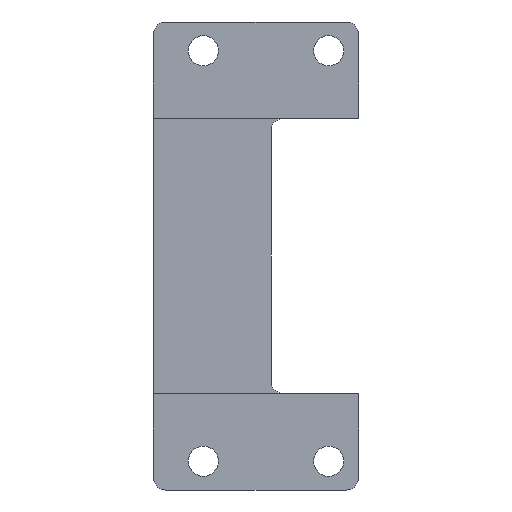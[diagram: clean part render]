
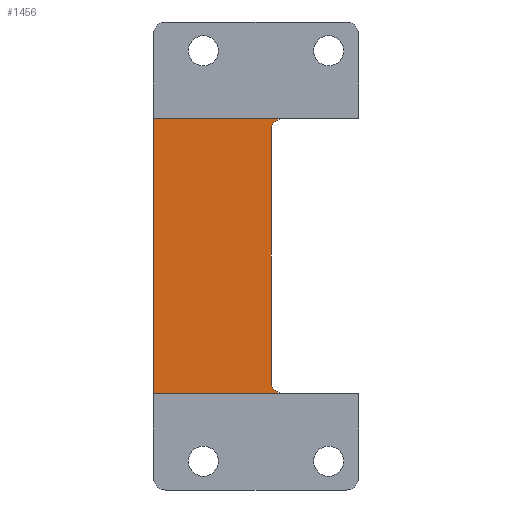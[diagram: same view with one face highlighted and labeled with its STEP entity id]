
A CAD part, left-side view. The second image highlights one B-rep face of the part: STEP entity #1456.
In plain terms, the highlighted planar face has unit normal (-1, 0, 0).
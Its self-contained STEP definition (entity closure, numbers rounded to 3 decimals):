
#48 = DIRECTION ( 'NONE',  ( 0., 0., -1. ) ) ;
#49 = CARTESIAN_POINT ( 'NONE',  ( 1., -6., 50. ) ) ;
#50 = LINE ( 'NONE', #49, #1151 ) ;
#170 = CARTESIAN_POINT ( 'NONE',  ( 1., -11., -55. ) ) ;
#173 = CARTESIAN_POINT ( 'NONE',  ( 1., -6., -50. ) ) ;
#176 = CARTESIAN_POINT ( 'NONE',  ( 1., -6., 50. ) ) ;
#177 = CARTESIAN_POINT ( 'NONE',  ( 1., -11., 55. ) ) ;
#187 = CARTESIAN_POINT ( 'NONE',  ( 1., 41., 55. ) ) ;
#189 = CARTESIAN_POINT ( 'NONE',  ( 1., 41., -55. ) ) ;
#337 = ORIENTED_EDGE ( 'NONE', *, *, #1522, .F. ) ;
#429 = ORIENTED_EDGE ( 'NONE', *, *, #1673, .F. ) ;
#430 = DIRECTION ( 'NONE',  ( 0., 0., -1. ) ) ;
#431 = DIRECTION ( 'NONE',  ( -1., 0., 0. ) ) ;
#456 = CARTESIAN_POINT ( 'NONE',  ( 1., -11., 50. ) ) ;
#542 = DIRECTION ( 'NONE',  ( 0., 0., -1. ) ) ;
#543 = CARTESIAN_POINT ( 'NONE',  ( 1., 41., -55. ) ) ;
#550 = LINE ( 'NONE', #543, #883 ) ;
#609 = EDGE_LOOP ( 'NONE', ( #1136, #907, #429, #337, #1288, #1006 ) ) ;
#642 = DIRECTION ( 'NONE',  ( 0., 1., 0. ) ) ;
#649 = CARTESIAN_POINT ( 'NONE',  ( 1., -41., -55. ) ) ;
#673 = LINE ( 'NONE', #649, #951 ) ;
#711 = LINE ( 'NONE', #1839, #1781 ) ;
#768 = AXIS2_PLACEMENT_3D ( 'NONE', #456, #431, #430 ) ;
#792 = VERTEX_POINT ( 'NONE', #189 ) ;
#793 = VERTEX_POINT ( 'NONE', #187 ) ;
#819 = VERTEX_POINT ( 'NONE', #177 ) ;
#820 = VERTEX_POINT ( 'NONE', #176 ) ;
#829 = VERTEX_POINT ( 'NONE', #173 ) ;
#832 = VERTEX_POINT ( 'NONE', #170 ) ;
#883 = VECTOR ( 'NONE', #542, 1000. ) ;
#907 = ORIENTED_EDGE ( 'NONE', *, *, #1691, .T. ) ;
#951 = VECTOR ( 'NONE', #642, 1000. ) ;
#1006 = ORIENTED_EDGE ( 'NONE', *, *, #1720, .F. ) ;
#1125 = CIRCLE ( 'NONE', #768, 5. ) ;
#1136 = ORIENTED_EDGE ( 'NONE', *, *, #1409, .T. ) ;
#1151 = VECTOR ( 'NONE', #48, 1000. ) ;
#1195 = CIRCLE ( 'NONE', #1546, 5. ) ;
#1288 = ORIENTED_EDGE ( 'NONE', *, *, #1372, .F. ) ;
#1372 = EDGE_CURVE ( 'NONE', #820, #829, #50, .T. ) ;
#1409 = EDGE_CURVE ( 'NONE', #819, #793, #711, .T. ) ;
#1444 = DIRECTION ( 'NONE',  ( 0., 0., -1. ) ) ;
#1451 = DIRECTION ( 'NONE',  ( -1., 0., 0. ) ) ;
#1453 = CARTESIAN_POINT ( 'NONE',  ( 1., -11., -50. ) ) ;
#1456 = ADVANCED_FACE ( 'NONE', ( #1663 ), #1736, .F. ) ;
#1522 = EDGE_CURVE ( 'NONE', #829, #832, #1195, .T. ) ;
#1546 = AXIS2_PLACEMENT_3D ( 'NONE', #1453, #1451, #1444 ) ;
#1663 = FACE_OUTER_BOUND ( 'NONE', #609, .T. ) ;
#1673 = EDGE_CURVE ( 'NONE', #832, #792, #673, .T. ) ;
#1691 = EDGE_CURVE ( 'NONE', #793, #792, #550, .T. ) ;
#1705 = AXIS2_PLACEMENT_3D ( 'NONE', #1735, #1728, #1727 ) ;
#1720 = EDGE_CURVE ( 'NONE', #819, #820, #1125, .T. ) ;
#1727 = DIRECTION ( 'NONE',  ( 0., 0., -1. ) ) ;
#1728 = DIRECTION ( 'NONE',  ( 1., 0., 0. ) ) ;
#1735 = CARTESIAN_POINT ( 'NONE',  ( 1., -41., -55. ) ) ;
#1736 = PLANE ( 'NONE',  #1705 ) ;
#1781 = VECTOR ( 'NONE', #1838, 1000. ) ;
#1838 = DIRECTION ( 'NONE',  ( 0., 1., 0. ) ) ;
#1839 = CARTESIAN_POINT ( 'NONE',  ( 1., -41., 55. ) ) ;
